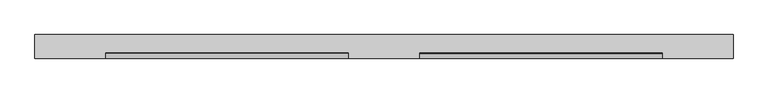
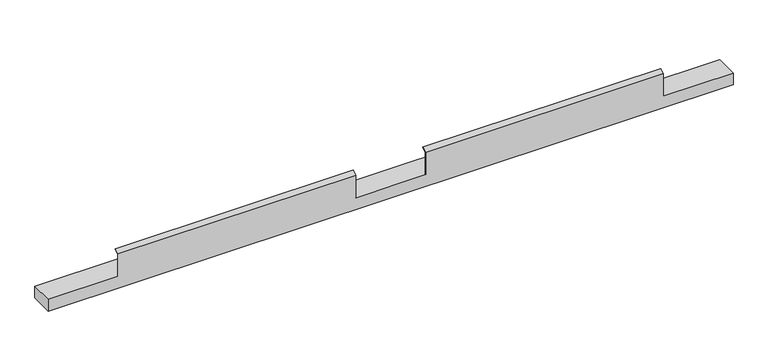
"""IFC4 building model written with IfcOpenShell, lengths in millimetres: proxy geometry, FOUNDATION^WORKSURFACES_OPEN OFFICE 1-59in."""

from ifc_helpers import new_model, si_unit, origin, place, context, project, spatial, faceted_brep, source, transform, mapped, element, save


def generic_models_cc7c4e7e(model_context):
    return source(origin(), model_context, "Body", "Brep", [
        faceted_brep([(0.0, 50.8, -25.4), (0.0, 0.0, -25.4), (0.0, 0.0, 1.51892), (0.0, 50.8, 1.51892), (1498.6, 0.0, -25.4), (1498.6, 0.0, 1.51892), (1346.2, 0.0, 1.51892), (1346.2, 0.0, 53.1958689), (825.5, 0.0, 53.1958689), (825.5, 0.0, 1.51892), (673.1, 0.0, 1.51892), (673.1, 0.0, 53.1958689), (152.4, 0.0, 53.1958689), (152.4, 0.0, 1.51892), (1498.6, 50.8, 1.51892), (1498.6, 50.8, -25.4), (825.5, 1.51892, 1.51892), (1346.2, 1.51892, 1.51892), (152.4, 1.51892, 1.51892), (673.1, 1.51892, 1.51892), (673.1, 1.51892, 52.31892), (673.1, 11.04392, 57.8181813), (673.1, 10.28446, 59.1336046), (825.5, 10.28446, 59.1336046), (825.5, 11.04392, 57.8181813), (825.5, 1.51892, 52.31892), (152.4, 10.28446, 59.1336046), (152.4, 1.51892, 52.31892), (152.4, 11.04392, 57.8181813), (1346.2, 10.28446, 59.1336046), (1346.2, 11.04392, 57.8181813), (1346.2, 1.51892, 52.31892)], [[[0, 1, 2, 3]], [[1, 4, 5, 6, 7, 8, 9, 10, 11, 12, 13, 2]], [[14, 15, 0, 3]], [[0, 15, 4, 1]], [[16, 17, 6, 5, 14, 3, 2, 13, 18, 19, 10, 9]], [[11, 10, 19, 20, 21, 22]], [[9, 8, 23, 24, 25, 16]], [[11, 22, 26, 12]], [[20, 19, 18, 27]], [[22, 21, 28, 26]], [[24, 23, 29, 30]], [[21, 20, 27, 28]], [[25, 24, 30, 31]], [[23, 8, 7, 29]], [[16, 25, 31, 17]], [[6, 17, 31, 30, 29, 7]], [[18, 13, 12, 26, 28, 27]], [[4, 15, 14, 5]]]),
    ])


if __name__ == "__main__":
    model = new_model("IFC4")
    model_context = context("Model", 3, world=origin())
    ifc_project = project(units=[si_unit("LENGTHUNIT", "METRE", prefix="MILLI")], contexts=[model_context])
    site = spatial("IfcSite", under=ifc_project)
    building = spatial("IfcBuilding", under=site)
    placement = place(None, origin())
    generic_models_shape = generic_models_cc7c4e7e(model_context)
    element("IfcBuildingElementProxy", 1, Name="FOUNDATION^WORKSURFACES_OPEN OFFICE 1-59in", ObjectType="FOUNDATION^WORKSURFACES_OPEN OFFICE 1-59in", at=placement, inside=building, context=model_context, shape_type="MappedRepresentation", body=[
        mapped(generic_models_shape, transform((0.0, 0.0, 0.0), x_axis=(1.0, 0.0, 0.0), y_axis=(0.0, 1.0, 0.0), z_axis=(0.0, 0.0, 1.0))),
    ])
    save(model, "model.ifc")
